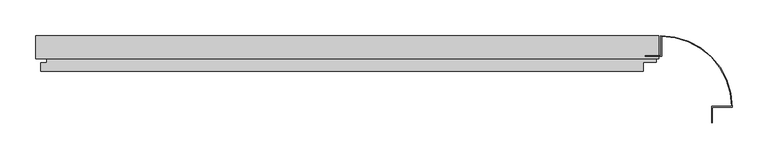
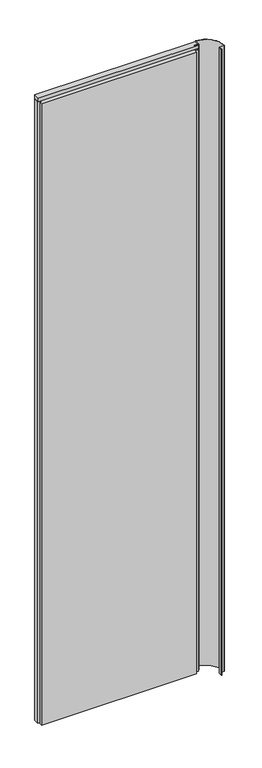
"""IFC4 building model written with IfcOpenShell, lengths in millimetres: plate geometry, Trimo_Qbiss Screen_Normal Panel-VERTICAL : HR - FB-F."""

import ifcopenshell
import ifcopenshell.guid

model = None  # the IFC model being written
_history = None  # IfcOwnerHistory: only IFC2X3 demands one
_inside = {}  # id of a spatial element -> (the spatial element, [elements in it])
_under = {}  # id of a project, library or spatial element -> (it, [spatial elements below it])
_declared = {}  # id of a project -> (the project, [libraries it declares])
_typed = {}  # id of a type object -> (the type object, [elements of that type])
_made_of = {}  # id of a material, layer set ... -> (it, [elements and type objects made of it])


def new_model(schema):
    """Start an empty IFC model of exactly this schema.

    Asked for "IFC4X3", IfcOpenShell would pick the latest addendum, in which some entities
    have other attributes; the version numbers below select the first issue.
    IFC2X3 requires an IfcOwnerHistory on every rooted entity: one is made here for all.
    """
    global model, _history
    if schema == "IFC4X3":
        model = ifcopenshell.file(schema_version=(4, 3, 0, 0))
    else:
        model = ifcopenshell.file(schema=schema)
    _inside.clear()
    _under.clear()
    _declared.clear()
    _typed.clear()
    _made_of.clear()
    _history = None
    if model.schema == "IFC2X3":
        org = make("IfcOrganization", Name="unknown")
        user = make(
            "IfcPersonAndOrganization",
            ThePerson=make("IfcPerson", FamilyName="unknown"),
            TheOrganization=org,
        )
        app = make(
            "IfcApplication",
            ApplicationDeveloper=org,
            Version="unknown",
            ApplicationFullName="unknown",
            ApplicationIdentifier="unknown",
        )
        _history = make(
            "IfcOwnerHistory",
            OwningUser=user,
            OwningApplication=app,
            ChangeAction="ADDED",
            CreationDate=0,
        )
    return model


def make(cls, **values):
    """One entity of the class cls with the attributes given. An attribute that is None is left unset."""
    return model.create_entity(
        cls, **{name: value for name, value in values.items() if value is not None}
    )


def rooted(cls, **values):
    """An entity with a GlobalId (a new one), such as an element, a storey or a relation."""
    return make(cls, GlobalId=ifcopenshell.guid.new(), OwnerHistory=_history, **values)


def si_unit(unit_type, name, prefix=None):
    """IfcSIUnit, for example si_unit("LENGTHUNIT", "METRE", prefix="MILLI")."""
    return make("IfcSIUnit", UnitType=unit_type, Prefix=prefix, Name=name)


def assignment(units):
    """IfcUnitAssignment: the units of a project."""
    return None if units is None else make("IfcUnitAssignment", Units=units)


def point(xyz):
    """IfcCartesianPoint."""
    return None if xyz is None else make("IfcCartesianPoint", Coordinates=xyz)


def direction(xyz):
    """IfcDirection."""
    return None if xyz is None else make("IfcDirection", DirectionRatios=xyz)


def frame(location, z_axis=None, x_axis=None):
    """IfcAxis2Placement3D, a coordinate frame: its origin and axes. An axis left out is left unset."""
    return make(
        "IfcAxis2Placement3D",
        Location=point(location),
        Axis=direction(z_axis),
        RefDirection=direction(x_axis),
    )


def frame_2d(location, x_axis=None):
    """IfcAxis2Placement2D, a coordinate frame in the plane: its origin and x axis."""
    return make(
        "IfcAxis2Placement2D", Location=point(location), RefDirection=direction(x_axis)
    )


def origin():
    """The frame at (0, 0, 0) with its axes left unset."""
    return frame((0.0, 0.0, 0.0))


def place(relative_to, where):
    """IfcLocalPlacement: puts the frame where relative to a parent placement (None: the world)."""
    return make(
        "IfcLocalPlacement", PlacementRelTo=relative_to, RelativePlacement=where
    )


def context(
    kind, dimensions, precision=None, world=None, true_north=None, identifier=None
):
    """IfcGeometricRepresentationContext, for example the 3D "Model" context."""
    return make(
        "IfcGeometricRepresentationContext",
        ContextIdentifier=identifier,
        ContextType=kind,
        CoordinateSpaceDimension=dimensions,
        Precision=precision,
        WorldCoordinateSystem=world,
        TrueNorth=true_north,
    )


def project(units=None, contexts=None):
    """IfcProject with its units and contexts."""
    return rooted(
        "IfcProject",
        Name="project",
        RepresentationContexts=contexts,
        UnitsInContext=assignment(units),
    )


def spatial(cls, under=None, at=None, **own):
    """A site, building, storey or space (cls), placed at a placement, below another one or the project."""
    s = rooted(cls, ObjectPlacement=at, **own)
    if under is not None:
        _under.setdefault(under.id(), (under, []))[1].append(s)
    return s


def polyline(points):
    """IfcPolyline through the points."""
    return make("IfcPolyline", Points=[point(p) for p in points])


def circle_curve(where, radius):
    """IfcCircle in the frame where."""
    return make("IfcCircle", Position=where, Radius=radius)


def trimmed(basis, trim1, trim2, sense, master):
    """IfcTrimmedCurve: the piece of a basis curve between two trims."""
    return make(
        "IfcTrimmedCurve",
        BasisCurve=basis,
        Trim1=trim1,
        Trim2=trim2,
        SenseAgreement=sense,
        MasterRepresentation=master,
    )


def segment(curve, same_sense, transition):
    """IfcCompositeCurveSegment."""
    return make(
        "IfcCompositeCurveSegment",
        Transition=transition,
        SameSense=same_sense,
        ParentCurve=curve,
    )


def composite_curve(segments, self_intersect=None):
    """IfcCompositeCurve: segments joined end to end."""
    return make("IfcCompositeCurve", Segments=segments, SelfIntersect=self_intersect)


def outline(outer, holes=None, kind="AREA"):
    """IfcArbitraryClosedProfileDef: a profile drawn as a closed curve; with holes, ...WithVoids."""
    if holes is None:
        return make("IfcArbitraryClosedProfileDef", ProfileType=kind, OuterCurve=outer)
    return make(
        "IfcArbitraryProfileDefWithVoids",
        ProfileType=kind,
        OuterCurve=outer,
        InnerCurves=holes,
    )


def extrude(swept, where, along, depth):
    """IfcExtrudedAreaSolid: the profile swept, set in the frame where, extruded along a direction by depth."""
    return make(
        "IfcExtrudedAreaSolid",
        SweptArea=swept,
        Position=where,
        ExtrudedDirection=direction(along),
        Depth=depth,
    )


def shape(context_of_items, identifier, shape_type, items):
    """IfcShapeRepresentation: the items that make up one representation, for example the "Body"."""
    return make(
        "IfcShapeRepresentation",
        ContextOfItems=context_of_items,
        RepresentationIdentifier=identifier,
        RepresentationType=shape_type,
        Items=items,
    )


def source(mapping_origin, context_of_items, identifier, shape_type, items):
    """IfcRepresentationMap: a shape defined once, which mapped items show again and again."""
    return make(
        "IfcRepresentationMap",
        MappingOrigin=mapping_origin,
        MappedRepresentation=shape(context_of_items, identifier, shape_type, items),
    )


def transform(
    local_origin,
    x_axis=None,
    y_axis=None,
    z_axis=None,
    scale=None,
    scale2=None,
    scale3=None,
    uniform=True,
):
    """IfcCartesianTransformationOperator3D, or its non-uniform kind. x_axis, y_axis, z_axis: its Axis1, 2, 3."""
    if uniform:
        return make(
            "IfcCartesianTransformationOperator3D",
            Axis1=direction(x_axis),
            Axis2=direction(y_axis),
            LocalOrigin=point(local_origin),
            Scale=scale,
            Axis3=direction(z_axis),
        )
    return make(
        "IfcCartesianTransformationOperator3DnonUniform",
        Axis1=direction(x_axis),
        Axis2=direction(y_axis),
        LocalOrigin=point(local_origin),
        Scale=scale,
        Axis3=direction(z_axis),
        Scale2=scale2,
        Scale3=scale3,
    )


def mapped(mapping_source, mapping_target):
    """IfcMappedItem: shows the shape of a source again, moved by a transform."""
    return make(
        "IfcMappedItem", MappingSource=mapping_source, MappingTarget=mapping_target
    )


def made_of(thing, what):
    """Note that an element or type object is made of a material, layer set ...; save() writes the relation."""
    if what is not None:
        _made_of.setdefault(what.id(), (what, []))[1].append(thing)
    return thing


def element(
    cls,
    number,
    at=None,
    inside=None,
    cuts=None,
    type_object=None,
    material=None,
    context=None,
    identifier="Body",
    shape_type=None,
    held_by="IfcProductDefinitionShape",
    body=None,
    shapes=None,
    **own,
):
    """One element of the class cls, such as IfcWall. Its Tag is "e" and its number.

    at: its placement. inside: the storey or other place that contains it. cuts: it is an
    opening in that element (IfcRelVoidsElement). A single representation is given by context,
    identifier, shape_type and body (its items); several are given by shapes. held_by: the class
    of the entity that holds the representations. save() writes the other relations.
    """
    e = rooted(cls, Tag="e%d" % number, ObjectPlacement=at, **own)
    if body is not None:
        shapes = [shape(context, identifier, shape_type, body)]
    if shapes is not None:
        e.Representation = make(held_by, Representations=shapes)
    if inside is not None:
        _inside.setdefault(inside.id(), (inside, []))[1].append(e)
    if cuts is not None:
        rooted(
            "IfcRelVoidsElement", RelatingBuildingElement=cuts, RelatedOpeningElement=e
        )
    if type_object is not None:
        _typed.setdefault(type_object.id(), (type_object, []))[1].append(e)
    return made_of(e, material)


def aggregate(whole, parts):
    """IfcRelAggregates: a whole, such as a stair, and the parts it consists of."""
    return rooted("IfcRelAggregates", RelatingObject=whole, RelatedObjects=parts)


def save(model, path):
    """Write the relations noted so far, then the file.

    IfcRelAggregates (storeys below a building ...), IfcRelContainedInSpatialStructure (elements
    in a storey), IfcRelDefinesByType, IfcRelAssociatesMaterial and IfcRelDeclares: one each for
    every whole, place, type object, material and project.
    """
    for whole, parts in _under.values():
        aggregate(whole, parts)
    for where, things in _inside.values():
        rooted(
            "IfcRelContainedInSpatialStructure",
            RelatedElements=things,
            RelatingStructure=where,
        )
    for kind, things in _typed.values():
        rooted("IfcRelDefinesByType", RelatedObjects=things, RelatingType=kind)
    for what, things in _made_of.values():
        rooted("IfcRelAssociatesMaterial", RelatedObjects=things, RelatingMaterial=what)
    for by, libraries in _declared.values():
        rooted("IfcRelDeclares", RelatingContext=by, RelatedDefinitions=libraries)
    model.write(path)


def plate_0ba88bf3(model_context):
    return source(origin(), model_context, "Body", "SweptSolid", [
        extrude(outline(polyline([(448.0, 97.0), (429.0, 97.0), (429.0, 126.0), (448.0, 126.0), (448.0, 97.0)])), frame((0.0, 0.0, 12.5), z_axis=(0.0, 0.0, 1.0), x_axis=(1.0, 0.0, 0.0)), (0.0, 0.0, 1.0), 3575.0),
        extrude(outline(polyline([(-425.0, 93.9), (-425.0, 126.0), (448.0, 126.0), (448.0, 93.9), (-425.0, 93.9)])), frame((0.0, 0.0, 3590.5), z_axis=(0.0, 0.0, 1.0), x_axis=(1.0, 0.0, 0.0)), (0.0, 0.0, 1.0), 19.0),
        extrude(outline(polyline([(426.0, 97.0), (444.5, 97.0), (444.5, 89.0), (426.0, 89.0), (426.0, 76.0), (-418.0, 76.0), (-418.0, 88.0), (-409.5, 88.0), (-409.5, 98.0), (-425.0, 98.0), (-425.0, 126.0), (426.0, 126.0), (426.0, 97.0)])), frame((0.0, 0.0, 12.5), z_axis=(0.0, 0.0, 1.0), x_axis=(1.0, 0.0, 0.0)), (0.0, 0.0, 1.0), 3575.0),
        extrude(outline(composite_curve([segment(polyline([(451.0, 97.8), (451.0, 126.0)]), True, "CONTINUOUS"), segment(trimmed(circle_curve(frame_2d((451.0, 26.0)), 100.0), [point((451.0, 126.0))], [point((551.0, 26.0))], False, "CARTESIAN"), True, "CONTINUOUS"), segment(polyline([(551.0, 26.0), (522.8, 26.0), (522.8, 4.0), (522.0, 4.0), (522.0, 26.8), (550.1967741, 26.8)]), True, "CONTINUOUS"), segment(trimmed(circle_curve(frame_2d((451.0, 26.0)), 99.2), [point((550.1967741, 26.8))], [point((451.8, 125.1967741))], True, "CARTESIAN"), True, "CONTINUOUS"), segment(polyline([(451.8, 125.1967741), (451.8, 97.0), (429.0, 97.0), (429.0, 97.8), (451.0, 97.8)]), True, "CONTINUOUS")], self_intersect=False)), frame((0.0, 0.0, 12.5), z_axis=(0.0, 0.0, 1.0), x_axis=(1.0, 0.0, 0.0)), (0.0, 0.0, 1.0), 3600.0),
    ])


if __name__ == "__main__":
    model = new_model("IFC4")
    model_context = context("Model", 3, world=origin())
    ifc_project = project(units=[si_unit("LENGTHUNIT", "METRE", prefix="MILLI")], contexts=[model_context])
    site = spatial("IfcSite", under=ifc_project)
    building = spatial("IfcBuilding", under=site)
    placement = place(None, origin())
    plate_shape = plate_0ba88bf3(model_context)
    element("IfcPlate", 1, ObjectType="Trimo_Qbiss Screen_Normal Panel-VERTICAL : HR - FB-F", at=placement, inside=building, context=model_context, shape_type="MappedRepresentation", body=[
        mapped(plate_shape, transform((0.0, 0.0, 0.0), x_axis=(1.0, 0.0, 0.0), y_axis=(0.0, 1.0, 0.0), z_axis=(0.0, 0.0, 1.0))),
    ])
    save(model, "model.ifc")
